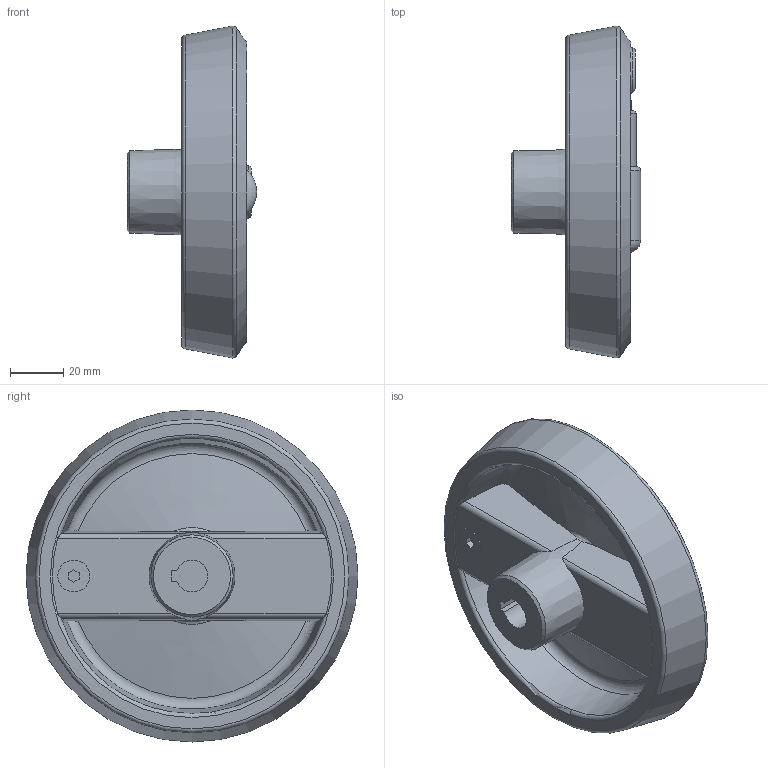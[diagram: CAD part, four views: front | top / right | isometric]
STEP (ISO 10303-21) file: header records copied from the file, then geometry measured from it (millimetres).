
FILE_DESCRIPTION( ( 'STEP AP203' ), '1' );
FILE_NAME( 'C:/Temp/Ganter_Step_05_03_2020/data/1_3/gn_923_7/gn_923_7_k/Handwheel with retractable handle GN 923.7-125-K12-R-SW (unactivated).stp', '2020-03-05T10:40:19', ( 'License CC BY-ND 4.0' ), ( 'CADENAS' ), ' ', 'PARTsolutions', ' ' );
FILE_SCHEMA( ( 'CONFIG_CONTROL_DESIGN' ) );
Length unit declared in the file: millimetre
Products named in the file (3): Handwheel with retractable handle GN 923.7-125-K12-R-SW (unactivated); _Umleggriff-Handrad GN 923.7-125-K12-R-SW-1; _Umleggriff-Handrad GN 923.7-125-K12-R-SW (0)-2
Assembly tree (2 placements, depth 2):
  Handwheel with retractable handle GN 923.7-125-K12-R-SW (unactivated)
    _Umleggriff-Handrad GN 923.7-125-K12-R-SW-1
    _Umleggriff-Handrad GN 923.7-125-K12-R-SW (0)-2
Bounding box: 48.7 x 125 x 125 mm (x, y, z)
Volume: 171739.7 mm3; surface area: 53894.3 mm2
Topology: 2 solids, 2 shells, 111 faces, 268 edges, 169 vertices
Faces by surface type: plane 47, cylinder 26, cone 15, torus 15, bspline 6, sphere 2
Full cylindrical faces by diameter (mm): 4 x2, 6 x1, 8 x1, 12 x1, 15 x1, 18.5 x1, 20 x1, 22 x1, 23 x2
Entity records: 3526 total; most frequent: CARTESIAN_POINT 994, DIRECTION 512, ORIENTED_EDGE 466, EDGE_CURVE 233, AXIS2_PLACEMENT_3D 215, VERTEX_POINT 163, EDGE_LOOP 149, FACE_OUTER_BOUND 129
